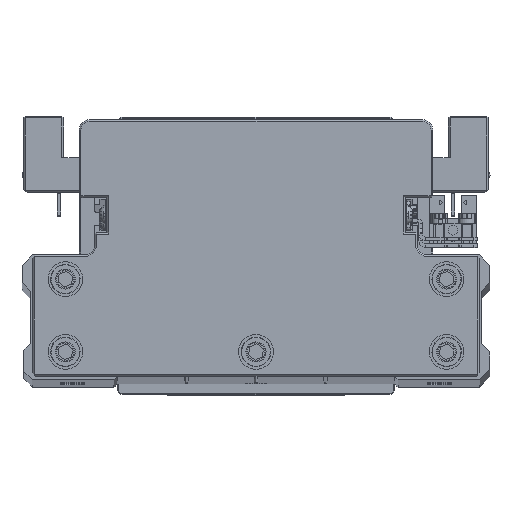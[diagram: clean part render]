
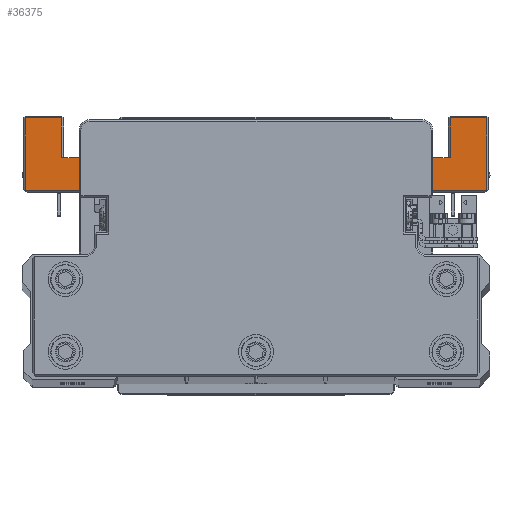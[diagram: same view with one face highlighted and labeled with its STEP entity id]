
A CAD part, top view. The second image highlights one B-rep face of the part: STEP entity #36375.
In plain terms, the highlighted planar face has unit normal (0, 0, 1) as drawn and (0, -1, 0) by its records, which use the part's own axes.
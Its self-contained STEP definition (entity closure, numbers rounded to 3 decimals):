
#3 = ORIENTED_EDGE ( 'NONE', *, *, #13670, .T. ) ;
#22 = CARTESIAN_POINT ( 'NONE',  ( -77.786, -45., -42.5 ) ) ;
#333 = DIRECTION ( 'NONE',  ( 0., 1., 0. ) ) ;
#396 = LINE ( 'NONE', #12983, #32838 ) ;
#629 = DIRECTION ( 'NONE',  ( 0., 0., 1. ) ) ;
#1724 = VERTEX_POINT ( 'NONE', #23616 ) ;
#1960 = EDGE_CURVE ( 'NONE', #14774, #10701, #28325, .T. ) ;
#2228 = CARTESIAN_POINT ( 'NONE',  ( 66.5, -45., -43. ) ) ;
#2308 = ORIENTED_EDGE ( 'NONE', *, *, #16438, .T. ) ;
#2408 = CARTESIAN_POINT ( 'NONE',  ( 67., -45., -64. ) ) ;
#3102 = EDGE_CURVE ( 'NONE', #1724, #38043, #16305, .T. ) ;
#3176 = VECTOR ( 'NONE', #16985, 1000. ) ;
#3238 = ORIENTED_EDGE ( 'NONE', *, *, #7213, .T. ) ;
#3246 = CARTESIAN_POINT ( 'NONE',  ( 0., -45., 0. ) ) ;
#4030 = CARTESIAN_POINT ( 'NONE',  ( -39.868, -45., -42.987 ) ) ;
#4218 = CARTESIAN_POINT ( 'NONE',  ( 56., -45., -64.5 ) ) ;
#4288 = CARTESIAN_POINT ( 'NONE',  ( -40.066, -45., -41.5 ) ) ;
#4391 = CARTESIAN_POINT ( 'NONE',  ( -56., -45., -52.5 ) ) ;
#4907 = DIRECTION ( 'NONE',  ( -0.991, 0., 0.132 ) ) ;
#5045 = VECTOR ( 'NONE', #24118, 1000. ) ;
#5285 = VECTOR ( 'NONE', #12611, 1000. ) ;
#5875 = ORIENTED_EDGE ( 'NONE', *, *, #18403, .F. ) ;
#5924 = EDGE_CURVE ( 'NONE', #8718, #26791, #36949, .T. ) ;
#6012 = VECTOR ( 'NONE', #4907, 1000. ) ;
#6241 = LINE ( 'NONE', #18837, #38288 ) ;
#6308 = EDGE_CURVE ( 'NONE', #40670, #14774, #20620, .T. ) ;
#6468 = LINE ( 'NONE', #19065, #28528 ) ;
#7213 = EDGE_CURVE ( 'NONE', #28793, #1724, #30722, .T. ) ;
#7426 = LINE ( 'NONE', #20022, #37865 ) ;
#8556 = LINE ( 'NONE', #21161, #30053 ) ;
#8661 = CARTESIAN_POINT ( 'NONE',  ( -66.5, -45., -64.5 ) ) ;
#8718 = VERTEX_POINT ( 'NONE', #25006 ) ;
#8798 = EDGE_CURVE ( 'NONE', #21588, #34782, #396, .T. ) ;
#8842 = DIRECTION ( 'NONE',  ( -1., 0., 0. ) ) ;
#9318 = EDGE_LOOP ( 'NONE', ( #11905, #24812, #13860, #2308, #22162, #14511, #25092, #30234, #34513, #3, #5875, #38109, #25667, #3238, #38202, #29976, #18822, #38659 ) ) ;
#9471 = CARTESIAN_POINT ( 'NONE',  ( 39.868, -45., -42.987 ) ) ;
#10701 = VERTEX_POINT ( 'NONE', #25685 ) ;
#11173 = LINE ( 'NONE', #23796, #24070 ) ;
#11417 = LINE ( 'NONE', #24052, #25934 ) ;
#11483 = CARTESIAN_POINT ( 'NONE',  ( -66., -45., -43. ) ) ;
#11905 = ORIENTED_EDGE ( 'NONE', *, *, #1960, .T. ) ;
#12611 = DIRECTION ( 'NONE',  ( -1., 0., 0. ) ) ;
#12921 = DIRECTION ( 'NONE',  ( 0., 0., -1. ) ) ;
#12983 = CARTESIAN_POINT ( 'NONE',  ( 55.5, -45., -52.5 ) ) ;
#13354 = CARTESIAN_POINT ( 'NONE',  ( 40.066, -45., -43. ) ) ;
#13382 = CARTESIAN_POINT ( 'NONE',  ( -56., -45., -52.5 ) ) ;
#13670 = EDGE_CURVE ( 'NONE', #32819, #17635, #8556, .T. ) ;
#13860 = ORIENTED_EDGE ( 'NONE', *, *, #24869, .T. ) ;
#14511 = ORIENTED_EDGE ( 'NONE', *, *, #37098, .T. ) ;
#14688 = EDGE_CURVE ( 'NONE', #34096, #40670, #16907, .T. ) ;
#14774 = VERTEX_POINT ( 'NONE', #35640 ) ;
#14997 = DIRECTION ( 'NONE',  ( 1., 0., 0. ) ) ;
#15120 = CARTESIAN_POINT ( 'NONE',  ( 46., -45., -52.5 ) ) ;
#15426 = VECTOR ( 'NONE', #16818, 1000. ) ;
#15832 = DIRECTION ( 'NONE',  ( 0., -1., 0. ) ) ;
#16208 = VERTEX_POINT ( 'NONE', #22480 ) ;
#16305 = LINE ( 'NONE', #28943, #29929 ) ;
#16438 = EDGE_CURVE ( 'NONE', #16208, #8718, #39800, .T. ) ;
#16818 = DIRECTION ( 'NONE',  ( 0., 0., -1. ) ) ;
#16885 = DIRECTION ( 'NONE',  ( 0., 1., 0. ) ) ;
#16907 = CIRCLE ( 'NONE', #40005, 1.5 ) ;
#16985 = DIRECTION ( 'NONE',  ( 0., 0., 1. ) ) ;
#17635 = VERTEX_POINT ( 'NONE', #19620 ) ;
#18032 = VERTEX_POINT ( 'NONE', #4030 ) ;
#18403 = EDGE_CURVE ( 'NONE', #34782, #17635, #6468, .T. ) ;
#18822 = ORIENTED_EDGE ( 'NONE', *, *, #14688, .T. ) ;
#18837 = CARTESIAN_POINT ( 'NONE',  ( -46., -45., -52.5 ) ) ;
#18935 = FACE_OUTER_BOUND ( 'NONE', #9318, .T. ) ;
#18945 = AXIS2_PLACEMENT_3D ( 'NONE', #4288, #16885, #29507 ) ;
#19065 = CARTESIAN_POINT ( 'NONE',  ( 46., -45., -52.5 ) ) ;
#19620 = CARTESIAN_POINT ( 'NONE',  ( 46., -45., -54. ) ) ;
#20022 = CARTESIAN_POINT ( 'NONE',  ( -55.5, -45., -52.5 ) ) ;
#20620 = LINE ( 'NONE', #33218, #6012 ) ;
#21161 = CARTESIAN_POINT ( 'NONE',  ( 46., -45., -54. ) ) ;
#21274 = DIRECTION ( 'NONE',  ( 0., 0., -1. ) ) ;
#21346 = EDGE_CURVE ( 'NONE', #36170, #40793, #7426, .T. ) ;
#21525 = EDGE_CURVE ( 'NONE', #38043, #34096, #24568, .T. ) ;
#21588 = VERTEX_POINT ( 'NONE', #28268 ) ;
#22162 = ORIENTED_EDGE ( 'NONE', *, *, #5924, .T. ) ;
#22480 = CARTESIAN_POINT ( 'NONE',  ( -40.066, -45., -43. ) ) ;
#23616 = CARTESIAN_POINT ( 'NONE',  ( 66.5, -45., -64. ) ) ;
#23796 = CARTESIAN_POINT ( 'NONE',  ( -39.868, -45., -42.987 ) ) ;
#24052 = CARTESIAN_POINT ( 'NONE',  ( -55.5, -45., -64. ) ) ;
#24070 = VECTOR ( 'NONE', #36368, 1000. ) ;
#24118 = DIRECTION ( 'NONE',  ( -1., 0., 0. ) ) ;
#24568 = LINE ( 'NONE', #37140, #35242 ) ;
#24812 = ORIENTED_EDGE ( 'NONE', *, *, #38752, .T. ) ;
#24869 = EDGE_CURVE ( 'NONE', #18032, #16208, #36749, .T. ) ;
#25006 = CARTESIAN_POINT ( 'NONE',  ( -66.5, -45., -43. ) ) ;
#25092 = ORIENTED_EDGE ( 'NONE', *, *, #27049, .T. ) ;
#25232 = VECTOR ( 'NONE', #14997, 1000. ) ;
#25609 = DIRECTION ( 'NONE',  ( -1., 0., 0. ) ) ;
#25667 = ORIENTED_EDGE ( 'NONE', *, *, #38267, .T. ) ;
#25685 = CARTESIAN_POINT ( 'NONE',  ( -36.217, -45., -42.5 ) ) ;
#25934 = VECTOR ( 'NONE', #36613, 1000. ) ;
#26648 = CARTESIAN_POINT ( 'NONE',  ( 56., -45., -64. ) ) ;
#26791 = VERTEX_POINT ( 'NONE', #33966 ) ;
#27049 = EDGE_CURVE ( 'NONE', #28484, #40793, #32705, .T. ) ;
#27193 = AXIS2_PLACEMENT_3D ( 'NONE', #3246, #15832, #28454 ) ;
#28268 = CARTESIAN_POINT ( 'NONE',  ( 56., -45., -52.5 ) ) ;
#28325 = LINE ( 'NONE', #22, #5285 ) ;
#28454 = DIRECTION ( 'NONE',  ( 0., 0., -1. ) ) ;
#28484 = VERTEX_POINT ( 'NONE', #33881 ) ;
#28528 = VECTOR ( 'NONE', #31674, 1000. ) ;
#28642 = CARTESIAN_POINT ( 'NONE',  ( 40.066, -45., -41.5 ) ) ;
#28793 = VERTEX_POINT ( 'NONE', #26648 ) ;
#28943 = CARTESIAN_POINT ( 'NONE',  ( 66.5, -45., -43.5 ) ) ;
#29096 = VECTOR ( 'NONE', #21274, 1000. ) ;
#29507 = DIRECTION ( 'NONE',  ( 0., 0., -1. ) ) ;
#29929 = VECTOR ( 'NONE', #629, 1000. ) ;
#29976 = ORIENTED_EDGE ( 'NONE', *, *, #21525, .T. ) ;
#30053 = VECTOR ( 'NONE', #33758, 1000. ) ;
#30234 = ORIENTED_EDGE ( 'NONE', *, *, #21346, .F. ) ;
#30722 = LINE ( 'NONE', #2408, #25232 ) ;
#31450 = DIRECTION ( 'NONE',  ( 0., 0., 1. ) ) ;
#31550 = PLANE ( 'NONE',  #27193 ) ;
#31674 = DIRECTION ( 'NONE',  ( 0., 0., -1. ) ) ;
#32529 = LINE ( 'NONE', #4218, #15426 ) ;
#32563 = CARTESIAN_POINT ( 'NONE',  ( -46., -45., -54. ) ) ;
#32630 = DIRECTION ( 'NONE',  ( -1., 0., 0. ) ) ;
#32705 = LINE ( 'NONE', #4391, #3176 ) ;
#32819 = VERTEX_POINT ( 'NONE', #32563 ) ;
#32838 = VECTOR ( 'NONE', #25609, 1000. ) ;
#33218 = CARTESIAN_POINT ( 'NONE',  ( 25.802, -45., -41.111 ) ) ;
#33419 = CARTESIAN_POINT ( 'NONE',  ( -46., -45., -52.5 ) ) ;
#33758 = DIRECTION ( 'NONE',  ( 1., 0., 0. ) ) ;
#33881 = CARTESIAN_POINT ( 'NONE',  ( -56., -45., -64. ) ) ;
#33966 = CARTESIAN_POINT ( 'NONE',  ( -66.5, -45., -64. ) ) ;
#34096 = VERTEX_POINT ( 'NONE', #13354 ) ;
#34513 = ORIENTED_EDGE ( 'NONE', *, *, #34895, .F. ) ;
#34782 = VERTEX_POINT ( 'NONE', #15120 ) ;
#34895 = EDGE_CURVE ( 'NONE', #32819, #36170, #6241, .T. ) ;
#35242 = VECTOR ( 'NONE', #8842, 1000. ) ;
#35640 = CARTESIAN_POINT ( 'NONE',  ( 36.217, -45., -42.5 ) ) ;
#36170 = VERTEX_POINT ( 'NONE', #33419 ) ;
#36368 = DIRECTION ( 'NONE',  ( -0.991, 0., -0.132 ) ) ;
#36375 = ADVANCED_FACE ( 'NONE', ( #18935 ), #31550, .T. ) ;
#36613 = DIRECTION ( 'NONE',  ( 1., 0., 0. ) ) ;
#36749 = CIRCLE ( 'NONE', #18945, 1.5 ) ;
#36949 = LINE ( 'NONE', #8661, #29096 ) ;
#37098 = EDGE_CURVE ( 'NONE', #26791, #28484, #11417, .T. ) ;
#37140 = CARTESIAN_POINT ( 'NONE',  ( 40.066, -45., -43. ) ) ;
#37865 = VECTOR ( 'NONE', #32630, 1000. ) ;
#38043 = VERTEX_POINT ( 'NONE', #2228 ) ;
#38109 = ORIENTED_EDGE ( 'NONE', *, *, #8798, .F. ) ;
#38202 = ORIENTED_EDGE ( 'NONE', *, *, #3102, .T. ) ;
#38267 = EDGE_CURVE ( 'NONE', #21588, #28793, #32529, .T. ) ;
#38288 = VECTOR ( 'NONE', #31450, 1000. ) ;
#38659 = ORIENTED_EDGE ( 'NONE', *, *, #6308, .T. ) ;
#38752 = EDGE_CURVE ( 'NONE', #10701, #18032, #11173, .T. ) ;
#39800 = LINE ( 'NONE', #11483, #5045 ) ;
#40005 = AXIS2_PLACEMENT_3D ( 'NONE', #28642, #333, #12921 ) ;
#40670 = VERTEX_POINT ( 'NONE', #9471 ) ;
#40793 = VERTEX_POINT ( 'NONE', #13382 ) ;
